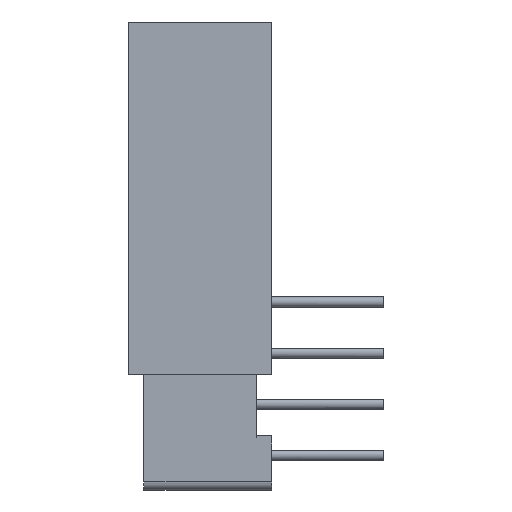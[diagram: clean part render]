
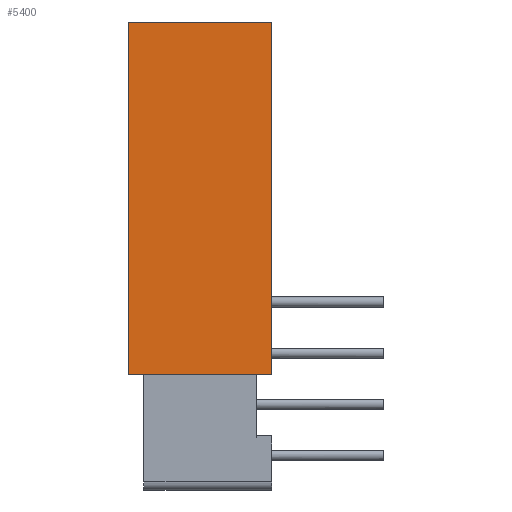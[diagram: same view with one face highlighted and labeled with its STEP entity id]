
A CAD part, left-side view. The second image highlights one B-rep face of the part: STEP entity #5400.
In plain terms, the highlighted planar face has unit normal (-1, 0, 0).
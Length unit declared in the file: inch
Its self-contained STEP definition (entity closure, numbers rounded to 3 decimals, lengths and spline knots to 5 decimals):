
#32 = EDGE_CURVE ( 'NONE', #13722, #35187, #3854, .T. ) ;
#2752 = ORIENTED_EDGE ( 'NONE', *, *, #23198, .F. ) ;
#3255 = CARTESIAN_POINT ( 'NONE',  ( -0.3625, -0.0725, -0.345 ) ) ;
#3381 = LINE ( 'NONE', #3840, #5310 ) ;
#3840 = CARTESIAN_POINT ( 'NONE',  ( -0.3625, 0.0675, -0.345 ) ) ;
#3854 = LINE ( 'NONE', #10806, #27520 ) ;
#5310 = VECTOR ( 'NONE', #25442, 39.37008 ) ;
#5400 = ADVANCED_FACE ( 'NONE', ( #24137 ), #31645, .T. ) ;
#5521 = LINE ( 'NONE', #35416, #29211 ) ;
#7844 = ORIENTED_EDGE ( 'NONE', *, *, #8397, .F. ) ;
#8397 = EDGE_CURVE ( 'NONE', #26915, #13722, #5521, .T. ) ;
#9636 = VERTEX_POINT ( 'NONE', #3255 ) ;
#10674 = EDGE_LOOP ( 'NONE', ( #16346, #26929, #7844, #2752 ) ) ;
#10806 = CARTESIAN_POINT ( 'NONE',  ( -0.3625, 0.0675, 0. ) ) ;
#11555 = VECTOR ( 'NONE', #12867, 39.37008 ) ;
#12867 = DIRECTION ( 'NONE',  ( 0., 0., 1. ) ) ;
#13012 = CARTESIAN_POINT ( 'NONE',  ( -0.3625, 0.0675, 0. ) ) ;
#13722 = VERTEX_POINT ( 'NONE', #13012 ) ;
#16346 = ORIENTED_EDGE ( 'NONE', *, *, #23795, .T. ) ;
#16883 = DIRECTION ( 'NONE',  ( 0., 0., 1. ) ) ;
#19762 = LINE ( 'NONE', #25157, #11555 ) ;
#23198 = EDGE_CURVE ( 'NONE', #9636, #26915, #3381, .T. ) ;
#23795 = EDGE_CURVE ( 'NONE', #9636, #35187, #19762, .T. ) ;
#24137 = FACE_OUTER_BOUND ( 'NONE', #10674, .T. ) ;
#25157 = CARTESIAN_POINT ( 'NONE',  ( -0.3625, -0.0725, -0.345 ) ) ;
#25442 = DIRECTION ( 'NONE',  ( 0., 1., 0. ) ) ;
#26159 = CARTESIAN_POINT ( 'NONE',  ( -0.3625, 0.0675, -0.345 ) ) ;
#26820 = CARTESIAN_POINT ( 'NONE',  ( -0.3625, -0.0725, 0. ) ) ;
#26915 = VERTEX_POINT ( 'NONE', #26159 ) ;
#26929 = ORIENTED_EDGE ( 'NONE', *, *, #32, .F. ) ;
#27520 = VECTOR ( 'NONE', #32421, 39.37008 ) ;
#28531 = CARTESIAN_POINT ( 'NONE',  ( -0.3625, 0.0675, -0.22 ) ) ;
#29211 = VECTOR ( 'NONE', #16883, 39.37008 ) ;
#31645 = PLANE ( 'NONE',  #32085 ) ;
#32085 = AXIS2_PLACEMENT_3D ( 'NONE', #28531, #37757, #34763 ) ;
#32421 = DIRECTION ( 'NONE',  ( 0., -1., 0. ) ) ;
#34763 = DIRECTION ( 'NONE',  ( 0., 0., 1. ) ) ;
#35187 = VERTEX_POINT ( 'NONE', #26820 ) ;
#35416 = CARTESIAN_POINT ( 'NONE',  ( -0.3625, 0.0675, -0.22 ) ) ;
#37757 = DIRECTION ( 'NONE',  ( -1., 0., 0. ) ) ;
